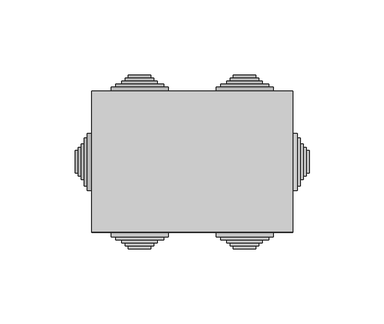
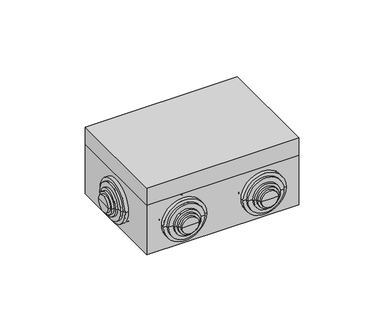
"""IFC4 building model written with IfcOpenShell, lengths in millimetres: cable carrier fitting geometry."""

from ifc_helpers import new_model, si_unit, frame, origin, place, context, project, spatial, polyline, circle_curve, faceted_brep, source, transform, mapped, element, save
from ifc_brep_helpers import plane_surface, cylinder_surface, revolved_surface, advanced_brep


def cable_carrier_fitting_28132b05(model_context):
    return source(origin(), model_context, "Body", "SolidModel", [
        advanced_brep(
        [(-65.0, -16.0, 23.0), (-65.0, 16.0, 23.0), (-65.0, 19.0, 23.0), (-65.0, -19.0, 23.0), (-67.0, -16.0, 23.0), (-67.0, 16.0, 23.0), (-67.0, -19.0, 23.0), (-67.0, 19.0, 23.0), (-70.0, -19.0, 23.0), (-70.0, 19.0, 23.0), (-70.0, -16.0, 23.0), (-70.0, 16.0, 23.0), (-72.0, -16.0, 23.0), (-72.0, 16.0, 23.0), (-72.0, -11.75, 23.0), (-72.0, 11.75, 23.0), (-74.0, -11.75, 23.0), (-74.0, 11.75, 23.0), (-74.0, -9.5, 23.0), (-74.0, 9.5, 23.0), (-76.0, -9.5, 23.0), (-76.0, 9.5, 23.0), (-76.0, -7.5, 23.0), (-76.0, 7.5, 23.0), (-78.0, -7.5, 23.0), (-78.0, 7.5, 23.0), (-78.0, 0.0, 23.0), (-58.0, -16.0, 23.0), (-58.0, 16.0, 23.0), (-58.0, 0.0, 23.0), (-62.7491137, -19.0, 23.0), (-62.7491137, 19.0, 23.0)],
        [
            (0, 1, circle_curve(frame((-65.0, 0.0, 23.0), z_axis=(1.0, 0.0, 0.0), x_axis=(0.0, 1.0000000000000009, 0.0)), 16.0)),
            (1, 2),
            (2, 3, circle_curve(frame((-65.0, 0.0, 23.0), z_axis=(-1.0, 0.0, 0.0), x_axis=(0.0, 1.0000000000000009, 0.0)), 19.0)),
            (3, 0),
            (1, 0, circle_curve(frame((-65.0, 0.0, 23.0), z_axis=(1.0, 0.0, 0.0), x_axis=(0.0, 1.0000000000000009, 0.0)), 16.0)),
            (3, 2, circle_curve(frame((-65.0, 0.0, 23.0), z_axis=(-1.0, 0.0, 0.0), x_axis=(0.0, 1.0000000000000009, 0.0)), 19.0)),
            (4, 5, circle_curve(frame((-67.0, 0.0, 23.0), z_axis=(1.0, 0.0, 0.0), x_axis=(0.0, 1.0000000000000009, 0.0)), 16.0)),
            (5, 1),
            (0, 4),
            (5, 4, circle_curve(frame((-67.0, 0.0, 23.0), z_axis=(1.0, 0.0, 0.0), x_axis=(0.0, 1.0000000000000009, 0.0)), 16.0)),
            (6, 7, circle_curve(frame((-67.0, 0.0, 23.0), z_axis=(1.0, 0.0, 0.0), x_axis=(0.0, 1.0000000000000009, 0.0)), 19.0)),
            (7, 5),
            (4, 6),
            (7, 6, circle_curve(frame((-67.0, 0.0, 23.0), z_axis=(1.0, 0.0, 0.0), x_axis=(0.0, 1.0000000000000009, 0.0)), 19.0)),
            (8, 9, circle_curve(frame((-70.0, 0.0, 23.0), z_axis=(1.0, 0.0, 0.0), x_axis=(0.0, 1.0000000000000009, 0.0)), 19.0)),
            (9, 7),
            (6, 8),
            (9, 8, circle_curve(frame((-70.0, 0.0, 23.0), z_axis=(1.0, 0.0, 0.0), x_axis=(0.0, 1.0000000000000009, 0.0)), 19.0)),
            (10, 11, circle_curve(frame((-70.0, 0.0, 23.0), z_axis=(1.0, 0.0, 0.0), x_axis=(0.0, 1.0000000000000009, 0.0)), 16.0)),
            (11, 9),
            (8, 10),
            (11, 10, circle_curve(frame((-70.0, 0.0, 23.0), z_axis=(1.0, 0.0, 0.0), x_axis=(0.0, 1.0000000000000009, 0.0)), 16.0)),
            (12, 13, circle_curve(frame((-72.0, 0.0, 23.0), z_axis=(1.0, 0.0, 0.0), x_axis=(0.0, 1.0000000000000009, 0.0)), 16.0)),
            (13, 11),
            (10, 12),
            (13, 12, circle_curve(frame((-72.0, 0.0, 23.0), z_axis=(1.0, 0.0, 0.0), x_axis=(0.0, 1.0000000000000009, 0.0)), 16.0)),
            (14, 15, circle_curve(frame((-72.0, 0.0, 23.0), z_axis=(1.0, 0.0, 0.0), x_axis=(0.0, 1.0000000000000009, 0.0)), 11.75)),
            (15, 13),
            (12, 14),
            (15, 14, circle_curve(frame((-72.0, 0.0, 23.0), z_axis=(1.0, 0.0, 0.0), x_axis=(0.0, 1.0000000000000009, 0.0)), 11.75)),
            (16, 17, circle_curve(frame((-74.0, 0.0, 23.0), z_axis=(1.0, 0.0, 0.0), x_axis=(0.0, 1.0000000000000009, 0.0)), 11.75)),
            (17, 15),
            (14, 16),
            (17, 16, circle_curve(frame((-74.0, 0.0, 23.0), z_axis=(1.0, 0.0, 0.0), x_axis=(0.0, 1.0000000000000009, 0.0)), 11.75)),
            (18, 19, circle_curve(frame((-74.0, 0.0, 23.0), z_axis=(1.0, 0.0, 0.0), x_axis=(0.0, 1.0000000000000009, 0.0)), 9.5)),
            (19, 17),
            (16, 18),
            (19, 18, circle_curve(frame((-74.0, 0.0, 23.0), z_axis=(1.0, 0.0, 0.0), x_axis=(0.0, 1.0000000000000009, 0.0)), 9.5)),
            (20, 21, circle_curve(frame((-76.0, 0.0, 23.0), z_axis=(1.0, 0.0, 0.0), x_axis=(0.0, 1.0000000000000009, 0.0)), 9.5)),
            (21, 19),
            (18, 20),
            (21, 20, circle_curve(frame((-76.0, 0.0, 23.0), z_axis=(1.0, 0.0, 0.0), x_axis=(0.0, 1.0000000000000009, 0.0)), 9.5)),
            (22, 23, circle_curve(frame((-76.0, 0.0, 23.0), z_axis=(1.0, 0.0, 0.0), x_axis=(0.0, 1.0000000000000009, 0.0)), 7.5)),
            (23, 21),
            (20, 22),
            (23, 22, circle_curve(frame((-76.0, 0.0, 23.0), z_axis=(1.0, 0.0, 0.0), x_axis=(0.0, 1.0000000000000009, 0.0)), 7.5)),
            (24, 25, circle_curve(frame((-78.0, 0.0, 23.0), z_axis=(1.0, 0.0, 0.0), x_axis=(0.0, 1.0000000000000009, 0.0)), 7.5)),
            (25, 23),
            (22, 24),
            (25, 24, circle_curve(frame((-78.0, 0.0, 23.0), z_axis=(1.0, 0.0, 0.0), x_axis=(0.0, 1.0000000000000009, 0.0)), 7.5)),
            (26, 25),
            (24, 26),
            (27, 28, circle_curve(frame((-58.0, 0.0, 23.0), z_axis=(1.0, 0.0, 0.0), x_axis=(0.0, 1.0000000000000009, 0.0)), 16.0)),
            (28, 29),
            (29, 27),
            (28, 27, circle_curve(frame((-58.0, 0.0, 23.0), z_axis=(1.0, 0.0, 0.0), x_axis=(0.0, 1.0000000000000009, 0.0)), 16.0)),
            (30, 31, circle_curve(frame((-62.7491137, 0.0, 23.0), z_axis=(1.0, 0.0, 0.0), x_axis=(0.0, 1.0000000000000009, 0.0)), 19.0)),
            (31, 28),
            (27, 30),
            (31, 30, circle_curve(frame((-62.7491137, 0.0, 23.0), z_axis=(1.0, 0.0, 0.0), x_axis=(0.0, 1.0000000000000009, 0.0)), 19.0)),
            (2, 31),
            (30, 3),
        ],
        [
            plane_surface(frame((-65.0, 0.0, 23.0), z_axis=(-1.0, 0.0, 0.0), x_axis=(0.0, 1.0, 0.0))),
            cylinder_surface(frame((1448.0, 0.0, 23.0), z_axis=(-1.0000000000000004, 0.0, 0.0), x_axis=(0.0, 1.0000000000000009, 0.0)), 16.0),
            plane_surface(frame((-67.0, 0.0, 23.0), z_axis=(1.0, 0.0, 0.0), x_axis=(0.0, 1.0, 0.0))),
            cylinder_surface(frame((1448.0, 0.0, 23.0), z_axis=(-1.0000000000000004, 0.0, 0.0), x_axis=(0.0, 1.0000000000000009, 0.0)), 19.0),
            plane_surface(frame((-70.0, 0.0, 23.0), z_axis=(-1.0, 0.0, 0.0), x_axis=(0.0, 1.0, 0.0))),
            plane_surface(frame((-72.0, 0.0, 23.0), z_axis=(-1.0, 0.0, 0.0), x_axis=(0.0, 1.0, 0.0))),
            cylinder_surface(frame((1448.0, 0.0, 23.0), z_axis=(-1.0000000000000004, 0.0, 0.0), x_axis=(0.0, 1.0000000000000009, 0.0)), 11.75),
            plane_surface(frame((-74.0, 0.0, 23.0), z_axis=(-1.0, 0.0, 0.0), x_axis=(0.0, 1.0, 0.0))),
            cylinder_surface(frame((1448.0, 0.0, 23.0), z_axis=(-1.0000000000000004, 0.0, 0.0), x_axis=(0.0, 1.0000000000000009, 0.0)), 9.5),
            plane_surface(frame((-76.0, 0.0, 23.0), z_axis=(-1.0, 0.0, 0.0), x_axis=(0.0, 1.0, 0.0))),
            cylinder_surface(frame((1448.0, 0.0, 23.0), z_axis=(-1.0000000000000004, 0.0, 0.0), x_axis=(0.0, 1.0000000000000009, 0.0)), 7.5),
            plane_surface(frame((-78.0, 0.0, 23.0), z_axis=(-1.0, 0.0, 0.0), x_axis=(0.0, 1.0, 0.0))),
            plane_surface(frame((-58.0, 0.0, 23.0), z_axis=(1.0, 0.0, 0.0), x_axis=(0.0, 1.0, 0.0))),
            revolved_surface(polyline([(-58.0, 16.0, 23.0), (-62.7491137, 19.0, 23.0)]), (1448.0, 0.0, 23.0), (-1.0000000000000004, 0.0, 0.0)),
        ],
        [
            (0, [[1, 2, 3, 4]]),
            (0, [[5, -4, 6, -2]]),
            (1, [[7, 8, -1, 9]]),
            (1, [[10, -9, -5, -8]]),
            (2, [[11, 12, -7, 13]]),
            (2, [[14, -13, -10, -12]]),
            (3, [[15, 16, -11, 17]]),
            (3, [[18, -17, -14, -16]]),
            (4, [[19, 20, -15, 21]]),
            (4, [[22, -21, -18, -20]]),
            (1, [[23, 24, -19, 25]]),
            (1, [[26, -25, -22, -24]]),
            (5, [[27, 28, -23, 29]]),
            (5, [[30, -29, -26, -28]]),
            (6, [[31, 32, -27, 33]]),
            (6, [[34, -33, -30, -32]]),
            (7, [[35, 36, -31, 37]]),
            (7, [[38, -37, -34, -36]]),
            (8, [[39, 40, -35, 41]]),
            (8, [[42, -41, -38, -40]]),
            (9, [[43, 44, -39, 45]]),
            (9, [[46, -45, -42, -44]]),
            (10, [[47, 48, -43, 49]]),
            (10, [[50, -49, -46, -48]]),
            (11, [[51, -47, 52]]),
            (11, [[-52, -50, -51]]),
            (12, [[53, 54, 55]]),
            (12, [[56, -55, -54]]),
            (13, [[57, 58, -53, 59]]),
            (13, [[60, -59, -56, -58]]),
            (3, [[-3, 61, -57, 62]]),
            (3, [[-6, -62, -60, -61]]),
        ],
    ),
        advanced_brep(
        [(65.0, 16.0, 23.0), (65.0, -16.0, 23.0), (65.0, -19.0, 23.0), (65.0, 19.0, 23.0), (67.0, 16.0, 23.0), (67.0, -16.0, 23.0), (67.0, 19.0, 23.0), (67.0, -19.0, 23.0), (70.0, 19.0, 23.0), (70.0, -19.0, 23.0), (70.0, 16.0, 23.0), (70.0, -16.0, 23.0), (72.0, 16.0, 23.0), (72.0, -16.0, 23.0), (72.0, 11.75, 23.0), (72.0, -11.75, 23.0), (74.0, 11.75, 23.0), (74.0, -11.75, 23.0), (74.0, 9.5, 23.0), (74.0, -9.5, 23.0), (76.0, 9.5, 23.0), (76.0, -9.5, 23.0), (76.0, 7.5, 23.0), (76.0, -7.5, 23.0), (78.0, 7.5, 23.0), (78.0, -7.5, 23.0), (78.0, 0.0, 23.0), (58.0, 16.0, 23.0), (58.0, -16.0, 23.0), (58.0, 0.0, 23.0), (62.7491137, 19.0, 23.0), (62.7491137, -19.0, 23.0)],
        [
            (0, 1, circle_curve(frame((65.0, 0.0, 23.0), z_axis=(-1.0, 0.0, 0.0), x_axis=(0.0, -1.0, 0.0)), 16.0)),
            (1, 2),
            (2, 3, circle_curve(frame((65.0, 0.0, 23.0), z_axis=(1.0, 0.0, 0.0), x_axis=(0.0, -1.0, 0.0)), 19.0)),
            (3, 0),
            (1, 0, circle_curve(frame((65.0, 0.0, 23.0), z_axis=(-1.0, 0.0, 0.0), x_axis=(0.0, -1.0, 0.0)), 16.0)),
            (3, 2, circle_curve(frame((65.0, 0.0, 23.0), z_axis=(1.0, 0.0, 0.0), x_axis=(0.0, -1.0, 0.0)), 19.0)),
            (4, 5, circle_curve(frame((67.0, 0.0, 23.0), z_axis=(-1.0, 0.0, 0.0), x_axis=(0.0, -1.0, 0.0)), 16.0)),
            (5, 1),
            (0, 4),
            (5, 4, circle_curve(frame((67.0, 0.0, 23.0), z_axis=(-1.0, 0.0, 0.0), x_axis=(0.0, -1.0, 0.0)), 16.0)),
            (6, 7, circle_curve(frame((67.0, 0.0, 23.0), z_axis=(-1.0, 0.0, 0.0), x_axis=(0.0, -1.0, 0.0)), 19.0)),
            (7, 5),
            (4, 6),
            (7, 6, circle_curve(frame((67.0, 0.0, 23.0), z_axis=(-1.0, 0.0, 0.0), x_axis=(0.0, -1.0, 0.0)), 19.0)),
            (8, 9, circle_curve(frame((70.0, 0.0, 23.0), z_axis=(-1.0, 0.0, 0.0), x_axis=(0.0, -1.0, 0.0)), 19.0)),
            (9, 7),
            (6, 8),
            (9, 8, circle_curve(frame((70.0, 0.0, 23.0), z_axis=(-1.0, 0.0, 0.0), x_axis=(0.0, -1.0, 0.0)), 19.0)),
            (10, 11, circle_curve(frame((70.0, 0.0, 23.0), z_axis=(-1.0, 0.0, 0.0), x_axis=(0.0, -1.0, 0.0)), 16.0)),
            (11, 9),
            (8, 10),
            (11, 10, circle_curve(frame((70.0, 0.0, 23.0), z_axis=(-1.0, 0.0, 0.0), x_axis=(0.0, -1.0, 0.0)), 16.0)),
            (12, 13, circle_curve(frame((72.0, 0.0, 23.0), z_axis=(-1.0, 0.0, 0.0), x_axis=(0.0, -1.0, 0.0)), 16.0)),
            (13, 11),
            (10, 12),
            (13, 12, circle_curve(frame((72.0, 0.0, 23.0), z_axis=(-1.0, 0.0, 0.0), x_axis=(0.0, -1.0, 0.0)), 16.0)),
            (14, 15, circle_curve(frame((72.0, 0.0, 23.0), z_axis=(-1.0, 0.0, 0.0), x_axis=(0.0, -1.0, 0.0)), 11.75)),
            (15, 13),
            (12, 14),
            (15, 14, circle_curve(frame((72.0, 0.0, 23.0), z_axis=(-1.0, 0.0, 0.0), x_axis=(0.0, -1.0, 0.0)), 11.75)),
            (16, 17, circle_curve(frame((74.0, 0.0, 23.0), z_axis=(-1.0, 0.0, 0.0), x_axis=(0.0, -1.0, 0.0)), 11.75)),
            (17, 15),
            (14, 16),
            (17, 16, circle_curve(frame((74.0, 0.0, 23.0), z_axis=(-1.0, 0.0, 0.0), x_axis=(0.0, -1.0, 0.0)), 11.75)),
            (18, 19, circle_curve(frame((74.0, 0.0, 23.0), z_axis=(-1.0, 0.0, 0.0), x_axis=(0.0, -1.0, 0.0)), 9.5)),
            (19, 17),
            (16, 18),
            (19, 18, circle_curve(frame((74.0, 0.0, 23.0), z_axis=(-1.0, 0.0, 0.0), x_axis=(0.0, -1.0, 0.0)), 9.5)),
            (20, 21, circle_curve(frame((76.0, 0.0, 23.0), z_axis=(-1.0, 0.0, 0.0), x_axis=(0.0, -1.0, 0.0)), 9.5)),
            (21, 19),
            (18, 20),
            (21, 20, circle_curve(frame((76.0, 0.0, 23.0), z_axis=(-1.0, 0.0, 0.0), x_axis=(0.0, -1.0, 0.0)), 9.5)),
            (22, 23, circle_curve(frame((76.0, 0.0, 23.0), z_axis=(-1.0, 0.0, 0.0), x_axis=(0.0, -1.0, 0.0)), 7.5)),
            (23, 21),
            (20, 22),
            (23, 22, circle_curve(frame((76.0, 0.0, 23.0), z_axis=(-1.0, 0.0, 0.0), x_axis=(0.0, -1.0, 0.0)), 7.5)),
            (24, 25, circle_curve(frame((78.0, 0.0, 23.0), z_axis=(-1.0, 0.0, 0.0), x_axis=(0.0, -1.0, 0.0)), 7.5)),
            (25, 23),
            (22, 24),
            (25, 24, circle_curve(frame((78.0, 0.0, 23.0), z_axis=(-1.0, 0.0, 0.0), x_axis=(0.0, -1.0, 0.0)), 7.5)),
            (26, 25),
            (24, 26),
            (27, 28, circle_curve(frame((58.0, 0.0, 23.0), z_axis=(-1.0, 0.0, 0.0), x_axis=(0.0, -1.0, 0.0)), 16.0)),
            (28, 29),
            (29, 27),
            (28, 27, circle_curve(frame((58.0, 0.0, 23.0), z_axis=(-1.0, 0.0, 0.0), x_axis=(0.0, -1.0, 0.0)), 16.0)),
            (30, 31, circle_curve(frame((62.7491137, 0.0, 23.0), z_axis=(-1.0, 0.0, 0.0), x_axis=(0.0, -1.0, 0.0)), 19.0)),
            (31, 28),
            (27, 30),
            (31, 30, circle_curve(frame((62.7491137, 0.0, 23.0), z_axis=(-1.0, 0.0, 0.0), x_axis=(0.0, -1.0, 0.0)), 19.0)),
            (2, 31),
            (30, 3),
        ],
        [
            plane_surface(frame((65.0, 0.0, 23.0), z_axis=(1.0, 0.0, 0.0), x_axis=(0.0, -1.0, 0.0))),
            cylinder_surface(frame((-1448.0, 0.0, 23.0), z_axis=(1.0, 0.0, 0.0), x_axis=(0.0, -1.0, 0.0)), 16.0),
            plane_surface(frame((67.0, 0.0, 23.0), z_axis=(-1.0, 0.0, 0.0), x_axis=(0.0, -1.0, 0.0))),
            cylinder_surface(frame((-1448.0, 0.0, 23.0), z_axis=(1.0, 0.0, 0.0), x_axis=(0.0, -1.0, 0.0)), 19.0),
            plane_surface(frame((70.0, 0.0, 23.0), z_axis=(1.0, 0.0, 0.0), x_axis=(0.0, -1.0, 0.0))),
            plane_surface(frame((72.0, 0.0, 23.0), z_axis=(1.0, 0.0, 0.0), x_axis=(0.0, -1.0, 0.0))),
            cylinder_surface(frame((-1448.0, 0.0, 23.0), z_axis=(1.0, 0.0, 0.0), x_axis=(0.0, -1.0, 0.0)), 11.75),
            plane_surface(frame((74.0, 0.0, 23.0), z_axis=(1.0, 0.0, 0.0), x_axis=(0.0, -1.0, 0.0))),
            cylinder_surface(frame((-1448.0, 0.0, 23.0), z_axis=(1.0, 0.0, 0.0), x_axis=(0.0, -1.0, 0.0)), 9.5),
            plane_surface(frame((76.0, 0.0, 23.0), z_axis=(1.0, 0.0, 0.0), x_axis=(0.0, -1.0, 0.0))),
            cylinder_surface(frame((-1448.0, 0.0, 23.0), z_axis=(1.0, 0.0, 0.0), x_axis=(0.0, -1.0, 0.0)), 7.5),
            plane_surface(frame((78.0, 0.0, 23.0), z_axis=(1.0, 0.0, 0.0), x_axis=(0.0, -1.0, 0.0))),
            plane_surface(frame((58.0, 0.0, 23.0), z_axis=(-1.0, 0.0, 0.0), x_axis=(0.0, -1.0, 0.0))),
            revolved_surface(polyline([(58.0, -16.0, 23.0), (62.7491137, -19.0, 23.0)]), (-1448.0, 0.0, 23.0), (1.0, 0.0, 0.0)),
        ],
        [
            (0, [[1, 2, 3, 4]]),
            (0, [[5, -4, 6, -2]]),
            (1, [[7, 8, -1, 9]]),
            (1, [[10, -9, -5, -8]]),
            (2, [[11, 12, -7, 13]]),
            (2, [[14, -13, -10, -12]]),
            (3, [[15, 16, -11, 17]]),
            (3, [[18, -17, -14, -16]]),
            (4, [[19, 20, -15, 21]]),
            (4, [[22, -21, -18, -20]]),
            (1, [[23, 24, -19, 25]]),
            (1, [[26, -25, -22, -24]]),
            (5, [[27, 28, -23, 29]]),
            (5, [[30, -29, -26, -28]]),
            (6, [[31, 32, -27, 33]]),
            (6, [[34, -33, -30, -32]]),
            (7, [[35, 36, -31, 37]]),
            (7, [[38, -37, -34, -36]]),
            (8, [[39, 40, -35, 41]]),
            (8, [[42, -41, -38, -40]]),
            (9, [[43, 44, -39, 45]]),
            (9, [[46, -45, -42, -44]]),
            (10, [[47, 48, -43, 49]]),
            (10, [[50, -49, -46, -48]]),
            (11, [[51, -47, 52]]),
            (11, [[-52, -50, -51]]),
            (12, [[53, 54, 55]]),
            (12, [[56, -55, -54]]),
            (13, [[57, 58, -53, 59]]),
            (13, [[60, -59, -56, -58]]),
            (3, [[-3, 61, -57, 62]]),
            (3, [[-6, -62, -60, -61]]),
        ],
    ),
        advanced_brep(
        [(51.0, -45.0, 23.0), (19.0, -45.0, 23.0), (16.0, -45.0, 23.0), (54.0, -45.0, 23.0), (51.0, -47.0, 23.0), (19.0, -47.0, 23.0), (54.0, -47.0, 23.0), (16.0, -47.0, 23.0), (54.0, -50.0, 23.0), (16.0, -50.0, 23.0), (51.0, -50.0, 23.0), (19.0, -50.0, 23.0), (51.0, -52.0, 23.0), (19.0, -52.0, 23.0), (46.75, -52.0, 23.0), (23.25, -52.0, 23.0), (46.75, -54.0, 23.0), (23.25, -54.0, 23.0), (44.5, -54.0, 23.0), (25.5, -54.0, 23.0), (44.5, -56.0, 23.0), (25.5, -56.0, 23.0), (42.5, -56.0, 23.0), (27.5, -56.0, 23.0), (42.5, -58.0, 23.0), (27.5, -58.0, 23.0), (35.0, -58.0, 23.0), (51.0, -38.0, 23.0), (19.0, -38.0, 23.0), (35.0, -38.0, 23.0), (54.0, -42.7491137, 23.0), (16.0, -42.7491137, 23.0)],
        [
            (0, 1, circle_curve(frame((35.0, -45.0, 23.0), z_axis=(0.0, 1.0, 0.0), x_axis=(-1.0000000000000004, 0.0, 0.0)), 16.0)),
            (1, 2),
            (2, 3, circle_curve(frame((35.0, -45.0, 23.0), z_axis=(0.0, -1.0, 0.0), x_axis=(-1.0000000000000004, 0.0, 0.0)), 19.0)),
            (3, 0),
            (1, 0, circle_curve(frame((35.0, -45.0, 23.0), z_axis=(0.0, 1.0, 0.0), x_axis=(-1.0000000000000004, 0.0, 0.0)), 16.0)),
            (3, 2, circle_curve(frame((35.0, -45.0, 23.0), z_axis=(0.0, -1.0, 0.0), x_axis=(-1.0000000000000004, 0.0, 0.0)), 19.0)),
            (4, 5, circle_curve(frame((35.0, -47.0, 23.0), z_axis=(0.0, 1.0, 0.0), x_axis=(-1.0000000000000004, 0.0, 0.0)), 16.0)),
            (5, 1),
            (0, 4),
            (5, 4, circle_curve(frame((35.0, -47.0, 23.0), z_axis=(0.0, 1.0, 0.0), x_axis=(-1.0000000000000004, 0.0, 0.0)), 16.0)),
            (6, 7, circle_curve(frame((35.0, -47.0, 23.0), z_axis=(0.0, 1.0, 0.0), x_axis=(-1.0000000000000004, 0.0, 0.0)), 19.0)),
            (7, 5),
            (4, 6),
            (7, 6, circle_curve(frame((35.0, -47.0, 23.0), z_axis=(0.0, 1.0, 0.0), x_axis=(-1.0000000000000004, 0.0, 0.0)), 19.0)),
            (8, 9, circle_curve(frame((35.0, -50.0, 23.0), z_axis=(0.0, 1.0, 0.0), x_axis=(-1.0000000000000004, 0.0, 0.0)), 19.0)),
            (9, 7),
            (6, 8),
            (9, 8, circle_curve(frame((35.0, -50.0, 23.0), z_axis=(0.0, 1.0, 0.0), x_axis=(-1.0000000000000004, 0.0, 0.0)), 19.0)),
            (10, 11, circle_curve(frame((35.0, -50.0, 23.0), z_axis=(0.0, 1.0, 0.0), x_axis=(-1.0000000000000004, 0.0, 0.0)), 16.0)),
            (11, 9),
            (8, 10),
            (11, 10, circle_curve(frame((35.0, -50.0, 23.0), z_axis=(0.0, 1.0, 0.0), x_axis=(-1.0000000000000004, 0.0, 0.0)), 16.0)),
            (12, 13, circle_curve(frame((35.0, -52.0, 23.0), z_axis=(0.0, 1.0, 0.0), x_axis=(-1.0000000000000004, 0.0, 0.0)), 16.0)),
            (13, 11),
            (10, 12),
            (13, 12, circle_curve(frame((35.0, -52.0, 23.0), z_axis=(0.0, 1.0, 0.0), x_axis=(-1.0000000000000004, 0.0, 0.0)), 16.0)),
            (14, 15, circle_curve(frame((35.0, -52.0, 23.0), z_axis=(0.0, 1.0, 0.0), x_axis=(-1.0000000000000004, 0.0, 0.0)), 11.75)),
            (15, 13),
            (12, 14),
            (15, 14, circle_curve(frame((35.0, -52.0, 23.0), z_axis=(0.0, 1.0, 0.0), x_axis=(-1.0000000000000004, 0.0, 0.0)), 11.75)),
            (16, 17, circle_curve(frame((35.0, -54.0, 23.0), z_axis=(0.0, 1.0, 0.0), x_axis=(-1.0000000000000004, 0.0, 0.0)), 11.75)),
            (17, 15),
            (14, 16),
            (17, 16, circle_curve(frame((35.0, -54.0, 23.0), z_axis=(0.0, 1.0, 0.0), x_axis=(-1.0000000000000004, 0.0, 0.0)), 11.75)),
            (18, 19, circle_curve(frame((35.0, -54.0, 23.0), z_axis=(0.0, 1.0, 0.0), x_axis=(-1.0000000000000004, 0.0, 0.0)), 9.5)),
            (19, 17),
            (16, 18),
            (19, 18, circle_curve(frame((35.0, -54.0, 23.0), z_axis=(0.0, 1.0, 0.0), x_axis=(-1.0000000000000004, 0.0, 0.0)), 9.5)),
            (20, 21, circle_curve(frame((35.0, -56.0, 23.0), z_axis=(0.0, 1.0, 0.0), x_axis=(-1.0000000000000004, 0.0, 0.0)), 9.5)),
            (21, 19),
            (18, 20),
            (21, 20, circle_curve(frame((35.0, -56.0, 23.0), z_axis=(0.0, 1.0, 0.0), x_axis=(-1.0000000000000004, 0.0, 0.0)), 9.5)),
            (22, 23, circle_curve(frame((35.0, -56.0, 23.0), z_axis=(0.0, 1.0, 0.0), x_axis=(-1.0000000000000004, 0.0, 0.0)), 7.5)),
            (23, 21),
            (20, 22),
            (23, 22, circle_curve(frame((35.0, -56.0, 23.0), z_axis=(0.0, 1.0, 0.0), x_axis=(-1.0000000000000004, 0.0, 0.0)), 7.5)),
            (24, 25, circle_curve(frame((35.0, -58.0, 23.0), z_axis=(0.0, 1.0, 0.0), x_axis=(-1.0000000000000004, 0.0, 0.0)), 7.5)),
            (25, 23),
            (22, 24),
            (25, 24, circle_curve(frame((35.0, -58.0, 23.0), z_axis=(0.0, 1.0, 0.0), x_axis=(-1.0000000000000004, 0.0, 0.0)), 7.5)),
            (26, 25),
            (24, 26),
            (27, 28, circle_curve(frame((35.0, -38.0, 23.0), z_axis=(0.0, 1.0, 0.0), x_axis=(-1.0000000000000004, 0.0, 0.0)), 16.0)),
            (28, 29),
            (29, 27),
            (28, 27, circle_curve(frame((35.0, -38.0, 23.0), z_axis=(0.0, 1.0, 0.0), x_axis=(-1.0000000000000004, 0.0, 0.0)), 16.0)),
            (30, 31, circle_curve(frame((35.0, -42.7491137, 23.0), z_axis=(0.0, 1.0, 0.0), x_axis=(-1.0000000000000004, 0.0, 0.0)), 19.0)),
            (31, 28),
            (27, 30),
            (31, 30, circle_curve(frame((35.0, -42.7491137, 23.0), z_axis=(0.0, 1.0, 0.0), x_axis=(-1.0000000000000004, 0.0, 0.0)), 19.0)),
            (2, 31),
            (30, 3),
        ],
        [
            plane_surface(frame((35.0, -45.0, 23.0), z_axis=(0.0, -1.0, 0.0), x_axis=(-1.0, 0.0, 0.0))),
            cylinder_surface(frame((35.0, 1468.0, 23.0), z_axis=(0.0, -1.0000000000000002, 0.0), x_axis=(-1.0000000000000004, 0.0, 0.0)), 16.0),
            plane_surface(frame((35.0, -47.0, 23.0), z_axis=(0.0, 1.0, 0.0), x_axis=(-1.0, 0.0, 0.0))),
            cylinder_surface(frame((35.0, 1468.0, 23.0), z_axis=(0.0, -1.0000000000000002, 0.0), x_axis=(-1.0000000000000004, 0.0, 0.0)), 19.0),
            plane_surface(frame((35.0, -50.0, 23.0), z_axis=(0.0, -1.0, 0.0), x_axis=(-1.0, 0.0, 0.0))),
            plane_surface(frame((35.0, -52.0, 23.0), z_axis=(0.0, -1.0, 0.0), x_axis=(-1.0, 0.0, 0.0))),
            cylinder_surface(frame((35.0, 1468.0, 23.0), z_axis=(0.0, -1.0000000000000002, 0.0), x_axis=(-1.0000000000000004, 0.0, 0.0)), 11.75),
            plane_surface(frame((35.0, -54.0, 23.0), z_axis=(0.0, -1.0, 0.0), x_axis=(-1.0, 0.0, 0.0))),
            cylinder_surface(frame((35.0, 1468.0, 23.0), z_axis=(0.0, -1.0000000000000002, 0.0), x_axis=(-1.0000000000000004, 0.0, 0.0)), 9.5),
            plane_surface(frame((35.0, -56.0, 23.0), z_axis=(0.0, -1.0, 0.0), x_axis=(-1.0, 0.0, 0.0))),
            cylinder_surface(frame((35.0, 1468.0, 23.0), z_axis=(0.0, -1.0000000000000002, 0.0), x_axis=(-1.0000000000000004, 0.0, 0.0)), 7.5),
            plane_surface(frame((35.0, -58.0, 23.0), z_axis=(0.0, -1.0, 0.0), x_axis=(-1.0, 0.0, 0.0))),
            plane_surface(frame((35.0, -38.0, 23.0), z_axis=(0.0, 1.0, 0.0), x_axis=(-1.0, 0.0, 0.0))),
            revolved_surface(polyline([(19.0, -38.0, 23.0), (16.0, -42.7491137, 23.0)]), (35.0, 1468.0, 23.0), (0.0, -1.0000000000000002, 0.0)),
        ],
        [
            (0, [[1, 2, 3, 4]]),
            (0, [[5, -4, 6, -2]]),
            (1, [[7, 8, -1, 9]]),
            (1, [[10, -9, -5, -8]]),
            (2, [[11, 12, -7, 13]]),
            (2, [[14, -13, -10, -12]]),
            (3, [[15, 16, -11, 17]]),
            (3, [[18, -17, -14, -16]]),
            (4, [[19, 20, -15, 21]]),
            (4, [[22, -21, -18, -20]]),
            (1, [[23, 24, -19, 25]]),
            (1, [[26, -25, -22, -24]]),
            (5, [[27, 28, -23, 29]]),
            (5, [[30, -29, -26, -28]]),
            (6, [[31, 32, -27, 33]]),
            (6, [[34, -33, -30, -32]]),
            (7, [[35, 36, -31, 37]]),
            (7, [[38, -37, -34, -36]]),
            (8, [[39, 40, -35, 41]]),
            (8, [[42, -41, -38, -40]]),
            (9, [[43, 44, -39, 45]]),
            (9, [[46, -45, -42, -44]]),
            (10, [[47, 48, -43, 49]]),
            (10, [[50, -49, -46, -48]]),
            (11, [[51, -47, 52]]),
            (11, [[-52, -50, -51]]),
            (12, [[53, 54, 55]]),
            (12, [[56, -55, -54]]),
            (13, [[57, 58, -53, 59]]),
            (13, [[60, -59, -56, -58]]),
            (3, [[-3, 61, -57, 62]]),
            (3, [[-6, -62, -60, -61]]),
        ],
    ),
        advanced_brep(
        [(-19.0, -45.0, 23.0), (-51.0, -45.0, 23.0), (-54.0, -45.0, 23.0), (-16.0, -45.0, 23.0), (-19.0, -47.0, 23.0), (-51.0, -47.0, 23.0), (-16.0, -47.0, 23.0), (-54.0, -47.0, 23.0), (-16.0, -50.0, 23.0), (-54.0, -50.0, 23.0), (-19.0, -50.0, 23.0), (-51.0, -50.0, 23.0), (-19.0, -52.0, 23.0), (-51.0, -52.0, 23.0), (-23.25, -52.0, 23.0), (-46.75, -52.0, 23.0), (-23.25, -54.0, 23.0), (-46.75, -54.0, 23.0), (-25.5, -54.0, 23.0), (-44.5, -54.0, 23.0), (-25.5, -56.0, 23.0), (-44.5, -56.0, 23.0), (-27.5, -56.0, 23.0), (-42.5, -56.0, 23.0), (-27.5, -58.0, 23.0), (-42.5, -58.0, 23.0), (-35.0, -58.0, 23.0), (-19.0, -38.0, 23.0), (-51.0, -38.0, 23.0), (-35.0, -38.0, 23.0), (-16.0, -42.7491137, 23.0), (-54.0, -42.7491137, 23.0)],
        [
            (0, 1, circle_curve(frame((-35.0, -45.0, 23.0), z_axis=(0.0, 1.0, 0.0), x_axis=(-1.0000000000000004, 0.0, 0.0)), 16.0)),
            (1, 2),
            (2, 3, circle_curve(frame((-35.0, -45.0, 23.0), z_axis=(0.0, -1.0, 0.0), x_axis=(-1.0000000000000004, 0.0, 0.0)), 19.0)),
            (3, 0),
            (1, 0, circle_curve(frame((-35.0, -45.0, 23.0), z_axis=(0.0, 1.0, 0.0), x_axis=(-1.0000000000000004, 0.0, 0.0)), 16.0)),
            (3, 2, circle_curve(frame((-35.0, -45.0, 23.0), z_axis=(0.0, -1.0, 0.0), x_axis=(-1.0000000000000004, 0.0, 0.0)), 19.0)),
            (4, 5, circle_curve(frame((-35.0, -47.0, 23.0), z_axis=(0.0, 1.0, 0.0), x_axis=(-1.0000000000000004, 0.0, 0.0)), 16.0)),
            (5, 1),
            (0, 4),
            (5, 4, circle_curve(frame((-35.0, -47.0, 23.0), z_axis=(0.0, 1.0, 0.0), x_axis=(-1.0000000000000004, 0.0, 0.0)), 16.0)),
            (6, 7, circle_curve(frame((-35.0, -47.0, 23.0), z_axis=(0.0, 1.0, 0.0), x_axis=(-1.0000000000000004, 0.0, 0.0)), 19.0)),
            (7, 5),
            (4, 6),
            (7, 6, circle_curve(frame((-35.0, -47.0, 23.0), z_axis=(0.0, 1.0, 0.0), x_axis=(-1.0000000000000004, 0.0, 0.0)), 19.0)),
            (8, 9, circle_curve(frame((-35.0, -50.0, 23.0), z_axis=(0.0, 1.0, 0.0), x_axis=(-1.0000000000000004, 0.0, 0.0)), 19.0)),
            (9, 7),
            (6, 8),
            (9, 8, circle_curve(frame((-35.0, -50.0, 23.0), z_axis=(0.0, 1.0, 0.0), x_axis=(-1.0000000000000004, 0.0, 0.0)), 19.0)),
            (10, 11, circle_curve(frame((-35.0, -50.0, 23.0), z_axis=(0.0, 1.0, 0.0), x_axis=(-1.0000000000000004, 0.0, 0.0)), 16.0)),
            (11, 9),
            (8, 10),
            (11, 10, circle_curve(frame((-35.0, -50.0, 23.0), z_axis=(0.0, 1.0, 0.0), x_axis=(-1.0000000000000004, 0.0, 0.0)), 16.0)),
            (12, 13, circle_curve(frame((-35.0, -52.0, 23.0), z_axis=(0.0, 1.0, 0.0), x_axis=(-1.0000000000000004, 0.0, 0.0)), 16.0)),
            (13, 11),
            (10, 12),
            (13, 12, circle_curve(frame((-35.0, -52.0, 23.0), z_axis=(0.0, 1.0, 0.0), x_axis=(-1.0000000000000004, 0.0, 0.0)), 16.0)),
            (14, 15, circle_curve(frame((-35.0, -52.0, 23.0), z_axis=(0.0, 1.0, 0.0), x_axis=(-1.0000000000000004, 0.0, 0.0)), 11.75)),
            (15, 13),
            (12, 14),
            (15, 14, circle_curve(frame((-35.0, -52.0, 23.0), z_axis=(0.0, 1.0, 0.0), x_axis=(-1.0000000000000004, 0.0, 0.0)), 11.75)),
            (16, 17, circle_curve(frame((-35.0, -54.0, 23.0), z_axis=(0.0, 1.0, 0.0), x_axis=(-1.0000000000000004, 0.0, 0.0)), 11.75)),
            (17, 15),
            (14, 16),
            (17, 16, circle_curve(frame((-35.0, -54.0, 23.0), z_axis=(0.0, 1.0, 0.0), x_axis=(-1.0000000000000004, 0.0, 0.0)), 11.75)),
            (18, 19, circle_curve(frame((-35.0, -54.0, 23.0), z_axis=(0.0, 1.0, 0.0), x_axis=(-1.0000000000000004, 0.0, 0.0)), 9.5)),
            (19, 17),
            (16, 18),
            (19, 18, circle_curve(frame((-35.0, -54.0, 23.0), z_axis=(0.0, 1.0, 0.0), x_axis=(-1.0000000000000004, 0.0, 0.0)), 9.5)),
            (20, 21, circle_curve(frame((-35.0, -56.0, 23.0), z_axis=(0.0, 1.0, 0.0), x_axis=(-1.0000000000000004, 0.0, 0.0)), 9.5)),
            (21, 19),
            (18, 20),
            (21, 20, circle_curve(frame((-35.0, -56.0, 23.0), z_axis=(0.0, 1.0, 0.0), x_axis=(-1.0000000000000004, 0.0, 0.0)), 9.5)),
            (22, 23, circle_curve(frame((-35.0, -56.0, 23.0), z_axis=(0.0, 1.0, 0.0), x_axis=(-1.0000000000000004, 0.0, 0.0)), 7.5)),
            (23, 21),
            (20, 22),
            (23, 22, circle_curve(frame((-35.0, -56.0, 23.0), z_axis=(0.0, 1.0, 0.0), x_axis=(-1.0000000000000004, 0.0, 0.0)), 7.5)),
            (24, 25, circle_curve(frame((-35.0, -58.0, 23.0), z_axis=(0.0, 1.0, 0.0), x_axis=(-1.0000000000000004, 0.0, 0.0)), 7.5)),
            (25, 23),
            (22, 24),
            (25, 24, circle_curve(frame((-35.0, -58.0, 23.0), z_axis=(0.0, 1.0, 0.0), x_axis=(-1.0000000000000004, 0.0, 0.0)), 7.5)),
            (26, 25),
            (24, 26),
            (27, 28, circle_curve(frame((-35.0, -38.0, 23.0), z_axis=(0.0, 1.0, 0.0), x_axis=(-1.0000000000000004, 0.0, 0.0)), 16.0)),
            (28, 29),
            (29, 27),
            (28, 27, circle_curve(frame((-35.0, -38.0, 23.0), z_axis=(0.0, 1.0, 0.0), x_axis=(-1.0000000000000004, 0.0, 0.0)), 16.0)),
            (30, 31, circle_curve(frame((-35.0, -42.7491137, 23.0), z_axis=(0.0, 1.0, 0.0), x_axis=(-1.0000000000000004, 0.0, 0.0)), 19.0)),
            (31, 28),
            (27, 30),
            (31, 30, circle_curve(frame((-35.0, -42.7491137, 23.0), z_axis=(0.0, 1.0, 0.0), x_axis=(-1.0000000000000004, 0.0, 0.0)), 19.0)),
            (2, 31),
            (30, 3),
        ],
        [
            plane_surface(frame((-35.0, -45.0, 23.0), z_axis=(0.0, -1.0, 0.0), x_axis=(-1.0, 0.0, 0.0))),
            cylinder_surface(frame((-35.0, 1468.0, 23.0), z_axis=(0.0, -1.0000000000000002, 0.0), x_axis=(-1.0000000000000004, 0.0, 0.0)), 16.0),
            plane_surface(frame((-35.0, -47.0, 23.0), z_axis=(0.0, 1.0, 0.0), x_axis=(-1.0, 0.0, 0.0))),
            cylinder_surface(frame((-35.0, 1468.0, 23.0), z_axis=(0.0, -1.0000000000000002, 0.0), x_axis=(-1.0000000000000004, 0.0, 0.0)), 19.0),
            plane_surface(frame((-35.0, -50.0, 23.0), z_axis=(0.0, -1.0, 0.0), x_axis=(-1.0, 0.0, 0.0))),
            plane_surface(frame((-35.0, -52.0, 23.0), z_axis=(0.0, -1.0, 0.0), x_axis=(-1.0, 0.0, 0.0))),
            cylinder_surface(frame((-35.0, 1468.0, 23.0), z_axis=(0.0, -1.0000000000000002, 0.0), x_axis=(-1.0000000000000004, 0.0, 0.0)), 11.75),
            plane_surface(frame((-35.0, -54.0, 23.0), z_axis=(0.0, -1.0, 0.0), x_axis=(-1.0, 0.0, 0.0))),
            cylinder_surface(frame((-35.0, 1468.0, 23.0), z_axis=(0.0, -1.0000000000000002, 0.0), x_axis=(-1.0000000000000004, 0.0, 0.0)), 9.5),
            plane_surface(frame((-35.0, -56.0, 23.0), z_axis=(0.0, -1.0, 0.0), x_axis=(-1.0, 0.0, 0.0))),
            cylinder_surface(frame((-35.0, 1468.0, 23.0), z_axis=(0.0, -1.0000000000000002, 0.0), x_axis=(-1.0000000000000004, 0.0, 0.0)), 7.5),
            plane_surface(frame((-35.0, -58.0, 23.0), z_axis=(0.0, -1.0, 0.0), x_axis=(-1.0, 0.0, 0.0))),
            plane_surface(frame((-35.0, -38.0, 23.0), z_axis=(0.0, 1.0, 0.0), x_axis=(-1.0, 0.0, 0.0))),
            revolved_surface(polyline([(-51.0, -38.0, 23.0), (-54.0, -42.7491137, 23.0)]), (-35.0, 1468.0, 23.0), (0.0, -1.0000000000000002, 0.0)),
        ],
        [
            (0, [[1, 2, 3, 4]]),
            (0, [[5, -4, 6, -2]]),
            (1, [[7, 8, -1, 9]]),
            (1, [[10, -9, -5, -8]]),
            (2, [[11, 12, -7, 13]]),
            (2, [[14, -13, -10, -12]]),
            (3, [[15, 16, -11, 17]]),
            (3, [[18, -17, -14, -16]]),
            (4, [[19, 20, -15, 21]]),
            (4, [[22, -21, -18, -20]]),
            (1, [[23, 24, -19, 25]]),
            (1, [[26, -25, -22, -24]]),
            (5, [[27, 28, -23, 29]]),
            (5, [[30, -29, -26, -28]]),
            (6, [[31, 32, -27, 33]]),
            (6, [[34, -33, -30, -32]]),
            (7, [[35, 36, -31, 37]]),
            (7, [[38, -37, -34, -36]]),
            (8, [[39, 40, -35, 41]]),
            (8, [[42, -41, -38, -40]]),
            (9, [[43, 44, -39, 45]]),
            (9, [[46, -45, -42, -44]]),
            (10, [[47, 48, -43, 49]]),
            (10, [[50, -49, -46, -48]]),
            (11, [[51, -47, 52]]),
            (11, [[-52, -50, -51]]),
            (12, [[53, 54, 55]]),
            (12, [[56, -55, -54]]),
            (13, [[57, 58, -53, 59]]),
            (13, [[60, -59, -56, -58]]),
            (3, [[-3, 61, -57, 62]]),
            (3, [[-6, -62, -60, -61]]),
        ],
    ),
        advanced_brep(
        [(19.0, 45.0, 23.0), (51.0, 45.0, 23.0), (54.0, 45.0, 23.0), (16.0, 45.0, 23.0), (19.0, 47.0, 23.0), (51.0, 47.0, 23.0), (16.0, 47.0, 23.0), (54.0, 47.0, 23.0), (16.0, 50.0, 23.0), (54.0, 50.0, 23.0), (19.0, 50.0, 23.0), (51.0, 50.0, 23.0), (19.0, 52.0, 23.0), (51.0, 52.0, 23.0), (23.25, 52.0, 23.0), (46.75, 52.0, 23.0), (23.25, 54.0, 23.0), (46.75, 54.0, 23.0), (25.5, 54.0, 23.0), (44.5, 54.0, 23.0), (25.5, 56.0, 23.0), (44.5, 56.0, 23.0), (27.5, 56.0, 23.0), (42.5, 56.0, 23.0), (27.5, 58.0, 23.0), (42.5, 58.0, 23.0), (35.0, 58.0, 23.0), (19.0, 38.0, 23.0), (51.0, 38.0, 23.0), (35.0, 38.0, 23.0), (16.0, 42.7491137, 23.0), (54.0, 42.7491137, 23.0)],
        [
            (0, 1, circle_curve(frame((35.0, 45.0, 23.0), z_axis=(0.0, -1.0, 0.0), x_axis=(1.0, 0.0, 0.0)), 16.0)),
            (1, 2),
            (2, 3, circle_curve(frame((35.0, 45.0, 23.0), z_axis=(0.0, 1.0, 0.0), x_axis=(1.0, 0.0, 0.0)), 19.0)),
            (3, 0),
            (1, 0, circle_curve(frame((35.0, 45.0, 23.0), z_axis=(0.0, -1.0, 0.0), x_axis=(1.0, 0.0, 0.0)), 16.0)),
            (3, 2, circle_curve(frame((35.0, 45.0, 23.0), z_axis=(0.0, 1.0, 0.0), x_axis=(1.0, 0.0, 0.0)), 19.0)),
            (4, 5, circle_curve(frame((35.0, 47.0, 23.0), z_axis=(0.0, -1.0, 0.0), x_axis=(1.0, 0.0, 0.0)), 16.0)),
            (5, 1),
            (0, 4),
            (5, 4, circle_curve(frame((35.0, 47.0, 23.0), z_axis=(0.0, -1.0, 0.0), x_axis=(1.0, 0.0, 0.0)), 16.0)),
            (6, 7, circle_curve(frame((35.0, 47.0, 23.0), z_axis=(0.0, -1.0, 0.0), x_axis=(1.0, 0.0, 0.0)), 19.0)),
            (7, 5),
            (4, 6),
            (7, 6, circle_curve(frame((35.0, 47.0, 23.0), z_axis=(0.0, -1.0, 0.0), x_axis=(1.0, 0.0, 0.0)), 19.0)),
            (8, 9, circle_curve(frame((35.0, 50.0, 23.0), z_axis=(0.0, -1.0, 0.0), x_axis=(1.0, 0.0, 0.0)), 19.0)),
            (9, 7),
            (6, 8),
            (9, 8, circle_curve(frame((35.0, 50.0, 23.0), z_axis=(0.0, -1.0, 0.0), x_axis=(1.0, 0.0, 0.0)), 19.0)),
            (10, 11, circle_curve(frame((35.0, 50.0, 23.0), z_axis=(0.0, -1.0, 0.0), x_axis=(1.0, 0.0, 0.0)), 16.0)),
            (11, 9),
            (8, 10),
            (11, 10, circle_curve(frame((35.0, 50.0, 23.0), z_axis=(0.0, -1.0, 0.0), x_axis=(1.0, 0.0, 0.0)), 16.0)),
            (12, 13, circle_curve(frame((35.0, 52.0, 23.0), z_axis=(0.0, -1.0, 0.0), x_axis=(1.0, 0.0, 0.0)), 16.0)),
            (13, 11),
            (10, 12),
            (13, 12, circle_curve(frame((35.0, 52.0, 23.0), z_axis=(0.0, -1.0, 0.0), x_axis=(1.0, 0.0, 0.0)), 16.0)),
            (14, 15, circle_curve(frame((35.0, 52.0, 23.0), z_axis=(0.0, -1.0, 0.0), x_axis=(1.0, 0.0, 0.0)), 11.75)),
            (15, 13),
            (12, 14),
            (15, 14, circle_curve(frame((35.0, 52.0, 23.0), z_axis=(0.0, -1.0, 0.0), x_axis=(1.0, 0.0, 0.0)), 11.75)),
            (16, 17, circle_curve(frame((35.0, 54.0, 23.0), z_axis=(0.0, -1.0, 0.0), x_axis=(1.0, 0.0, 0.0)), 11.75)),
            (17, 15),
            (14, 16),
            (17, 16, circle_curve(frame((35.0, 54.0, 23.0), z_axis=(0.0, -1.0, 0.0), x_axis=(1.0, 0.0, 0.0)), 11.75)),
            (18, 19, circle_curve(frame((35.0, 54.0, 23.0), z_axis=(0.0, -1.0, 0.0), x_axis=(1.0, 0.0, 0.0)), 9.5)),
            (19, 17),
            (16, 18),
            (19, 18, circle_curve(frame((35.0, 54.0, 23.0), z_axis=(0.0, -1.0, 0.0), x_axis=(1.0, 0.0, 0.0)), 9.5)),
            (20, 21, circle_curve(frame((35.0, 56.0, 23.0), z_axis=(0.0, -1.0, 0.0), x_axis=(1.0, 0.0, 0.0)), 9.5)),
            (21, 19),
            (18, 20),
            (21, 20, circle_curve(frame((35.0, 56.0, 23.0), z_axis=(0.0, -1.0, 0.0), x_axis=(1.0, 0.0, 0.0)), 9.5)),
            (22, 23, circle_curve(frame((35.0, 56.0, 23.0), z_axis=(0.0, -1.0, 0.0), x_axis=(1.0, 0.0, 0.0)), 7.5)),
            (23, 21),
            (20, 22),
            (23, 22, circle_curve(frame((35.0, 56.0, 23.0), z_axis=(0.0, -1.0, 0.0), x_axis=(1.0, 0.0, 0.0)), 7.5)),
            (24, 25, circle_curve(frame((35.0, 58.0, 23.0), z_axis=(0.0, -1.0, 0.0), x_axis=(1.0, 0.0, 0.0)), 7.5)),
            (25, 23),
            (22, 24),
            (25, 24, circle_curve(frame((35.0, 58.0, 23.0), z_axis=(0.0, -1.0, 0.0), x_axis=(1.0, 0.0, 0.0)), 7.5)),
            (26, 25),
            (24, 26),
            (27, 28, circle_curve(frame((35.0, 38.0, 23.0), z_axis=(0.0, -1.0, 0.0), x_axis=(1.0, 0.0, 0.0)), 16.0)),
            (28, 29),
            (29, 27),
            (28, 27, circle_curve(frame((35.0, 38.0, 23.0), z_axis=(0.0, -1.0, 0.0), x_axis=(1.0, 0.0, 0.0)), 16.0)),
            (30, 31, circle_curve(frame((35.0, 42.7491137, 23.0), z_axis=(0.0, -1.0, 0.0), x_axis=(1.0, 0.0, 0.0)), 19.0)),
            (31, 28),
            (27, 30),
            (31, 30, circle_curve(frame((35.0, 42.7491137, 23.0), z_axis=(0.0, -1.0, 0.0), x_axis=(1.0, 0.0, 0.0)), 19.0)),
            (2, 31),
            (30, 3),
        ],
        [
            plane_surface(frame((35.0, 45.0, 23.0), z_axis=(0.0, 1.0, 0.0), x_axis=(1.0, 0.0, 0.0))),
            cylinder_surface(frame((35.0, -1468.0, 23.0), z_axis=(0.0, 1.0, 0.0), x_axis=(1.0, 0.0, 0.0)), 16.0),
            plane_surface(frame((35.0, 47.0, 23.0), z_axis=(0.0, -1.0, 0.0), x_axis=(1.0, 0.0, 0.0))),
            cylinder_surface(frame((35.0, -1468.0, 23.0), z_axis=(0.0, 1.0, 0.0), x_axis=(1.0, 0.0, 0.0)), 19.0),
            plane_surface(frame((35.0, 50.0, 23.0), z_axis=(0.0, 1.0, 0.0), x_axis=(1.0, 0.0, 0.0))),
            plane_surface(frame((35.0, 52.0, 23.0), z_axis=(0.0, 1.0, 0.0), x_axis=(1.0, 0.0, 0.0))),
            cylinder_surface(frame((35.0, -1468.0, 23.0), z_axis=(0.0, 1.0, 0.0), x_axis=(1.0, 0.0, 0.0)), 11.75),
            plane_surface(frame((35.0, 54.0, 23.0), z_axis=(0.0, 1.0, 0.0), x_axis=(1.0, 0.0, 0.0))),
            cylinder_surface(frame((35.0, -1468.0, 23.0), z_axis=(0.0, 1.0, 0.0), x_axis=(1.0, 0.0, 0.0)), 9.5),
            plane_surface(frame((35.0, 56.0, 23.0), z_axis=(0.0, 1.0, 0.0), x_axis=(1.0, 0.0, 0.0))),
            cylinder_surface(frame((35.0, -1468.0, 23.0), z_axis=(0.0, 1.0, 0.0), x_axis=(1.0, 0.0, 0.0)), 7.5),
            plane_surface(frame((35.0, 58.0, 23.0), z_axis=(0.0, 1.0, 0.0), x_axis=(1.0, 0.0, 0.0))),
            plane_surface(frame((35.0, 38.0, 23.0), z_axis=(0.0, -1.0, 0.0), x_axis=(1.0, 0.0, 0.0))),
            revolved_surface(polyline([(51.0, 38.0, 23.0), (54.0, 42.7491137, 23.0)]), (35.0, -1468.0, 23.0), (0.0, 1.0, 0.0)),
        ],
        [
            (0, [[1, 2, 3, 4]]),
            (0, [[5, -4, 6, -2]]),
            (1, [[7, 8, -1, 9]]),
            (1, [[10, -9, -5, -8]]),
            (2, [[11, 12, -7, 13]]),
            (2, [[14, -13, -10, -12]]),
            (3, [[15, 16, -11, 17]]),
            (3, [[18, -17, -14, -16]]),
            (4, [[19, 20, -15, 21]]),
            (4, [[22, -21, -18, -20]]),
            (1, [[23, 24, -19, 25]]),
            (1, [[26, -25, -22, -24]]),
            (5, [[27, 28, -23, 29]]),
            (5, [[30, -29, -26, -28]]),
            (6, [[31, 32, -27, 33]]),
            (6, [[34, -33, -30, -32]]),
            (7, [[35, 36, -31, 37]]),
            (7, [[38, -37, -34, -36]]),
            (8, [[39, 40, -35, 41]]),
            (8, [[42, -41, -38, -40]]),
            (9, [[43, 44, -39, 45]]),
            (9, [[46, -45, -42, -44]]),
            (10, [[47, 48, -43, 49]]),
            (10, [[50, -49, -46, -48]]),
            (11, [[51, -47, 52]]),
            (11, [[-52, -50, -51]]),
            (12, [[53, 54, 55]]),
            (12, [[56, -55, -54]]),
            (13, [[57, 58, -53, 59]]),
            (13, [[60, -59, -56, -58]]),
            (3, [[-3, 61, -57, 62]]),
            (3, [[-6, -62, -60, -61]]),
        ],
    ),
        advanced_brep(
        [(-51.0, 45.0, 23.0), (-19.0, 45.0, 23.0), (-16.0, 45.0, 23.0), (-54.0, 45.0, 23.0), (-51.0, 47.0, 23.0), (-19.0, 47.0, 23.0), (-54.0, 47.0, 23.0), (-16.0, 47.0, 23.0), (-54.0, 50.0, 23.0), (-16.0, 50.0, 23.0), (-51.0, 50.0, 23.0), (-19.0, 50.0, 23.0), (-51.0, 52.0, 23.0), (-19.0, 52.0, 23.0), (-46.75, 52.0, 23.0), (-23.25, 52.0, 23.0), (-46.75, 54.0, 23.0), (-23.25, 54.0, 23.0), (-44.5, 54.0, 23.0), (-25.5, 54.0, 23.0), (-44.5, 56.0, 23.0), (-25.5, 56.0, 23.0), (-42.5, 56.0, 23.0), (-27.5, 56.0, 23.0), (-42.5, 58.0, 23.0), (-27.5, 58.0, 23.0), (-35.0, 58.0, 23.0), (-51.0, 38.0, 23.0), (-19.0, 38.0, 23.0), (-35.0, 38.0, 23.0), (-54.0, 42.7491137, 23.0), (-16.0, 42.7491137, 23.0)],
        [
            (0, 1, circle_curve(frame((-35.0, 45.0, 23.0), z_axis=(0.0, -1.0, 0.0), x_axis=(1.0000000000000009, 0.0, 0.0)), 16.0)),
            (1, 2),
            (2, 3, circle_curve(frame((-35.0, 45.0, 23.0), z_axis=(0.0, 1.0, 0.0), x_axis=(1.0000000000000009, 0.0, 0.0)), 19.0)),
            (3, 0),
            (1, 0, circle_curve(frame((-35.0, 45.0, 23.0), z_axis=(0.0, -1.0, 0.0), x_axis=(1.0000000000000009, 0.0, 0.0)), 16.0)),
            (3, 2, circle_curve(frame((-35.0, 45.0, 23.0), z_axis=(0.0, 1.0, 0.0), x_axis=(1.0000000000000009, 0.0, 0.0)), 19.0)),
            (4, 5, circle_curve(frame((-35.0, 47.0, 23.0), z_axis=(0.0, -1.0, 0.0), x_axis=(1.0000000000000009, 0.0, 0.0)), 16.0)),
            (5, 1),
            (0, 4),
            (5, 4, circle_curve(frame((-35.0, 47.0, 23.0), z_axis=(0.0, -1.0, 0.0), x_axis=(1.0000000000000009, 0.0, 0.0)), 16.0)),
            (6, 7, circle_curve(frame((-35.0, 47.0, 23.0), z_axis=(0.0, -1.0, 0.0), x_axis=(1.0000000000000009, 0.0, 0.0)), 19.0)),
            (7, 5),
            (4, 6),
            (7, 6, circle_curve(frame((-35.0, 47.0, 23.0), z_axis=(0.0, -1.0, 0.0), x_axis=(1.0000000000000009, 0.0, 0.0)), 19.0)),
            (8, 9, circle_curve(frame((-35.0, 50.0, 23.0), z_axis=(0.0, -1.0, 0.0), x_axis=(1.0000000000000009, 0.0, 0.0)), 19.0)),
            (9, 7),
            (6, 8),
            (9, 8, circle_curve(frame((-35.0, 50.0, 23.0), z_axis=(0.0, -1.0, 0.0), x_axis=(1.0000000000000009, 0.0, 0.0)), 19.0)),
            (10, 11, circle_curve(frame((-35.0, 50.0, 23.0), z_axis=(0.0, -1.0, 0.0), x_axis=(1.0000000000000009, 0.0, 0.0)), 16.0)),
            (11, 9),
            (8, 10),
            (11, 10, circle_curve(frame((-35.0, 50.0, 23.0), z_axis=(0.0, -1.0, 0.0), x_axis=(1.0000000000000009, 0.0, 0.0)), 16.0)),
            (12, 13, circle_curve(frame((-35.0, 52.0, 23.0), z_axis=(0.0, -1.0, 0.0), x_axis=(1.0000000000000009, 0.0, 0.0)), 16.0)),
            (13, 11),
            (10, 12),
            (13, 12, circle_curve(frame((-35.0, 52.0, 23.0), z_axis=(0.0, -1.0, 0.0), x_axis=(1.0000000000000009, 0.0, 0.0)), 16.0)),
            (14, 15, circle_curve(frame((-35.0, 52.0, 23.0), z_axis=(0.0, -1.0, 0.0), x_axis=(1.0000000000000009, 0.0, 0.0)), 11.75)),
            (15, 13),
            (12, 14),
            (15, 14, circle_curve(frame((-35.0, 52.0, 23.0), z_axis=(0.0, -1.0, 0.0), x_axis=(1.0000000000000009, 0.0, 0.0)), 11.75)),
            (16, 17, circle_curve(frame((-35.0, 54.0, 23.0), z_axis=(0.0, -1.0, 0.0), x_axis=(1.0000000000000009, 0.0, 0.0)), 11.75)),
            (17, 15),
            (14, 16),
            (17, 16, circle_curve(frame((-35.0, 54.0, 23.0), z_axis=(0.0, -1.0, 0.0), x_axis=(1.0000000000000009, 0.0, 0.0)), 11.75)),
            (18, 19, circle_curve(frame((-35.0, 54.0, 23.0), z_axis=(0.0, -1.0, 0.0), x_axis=(1.0000000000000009, 0.0, 0.0)), 9.5)),
            (19, 17),
            (16, 18),
            (19, 18, circle_curve(frame((-35.0, 54.0, 23.0), z_axis=(0.0, -1.0, 0.0), x_axis=(1.0000000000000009, 0.0, 0.0)), 9.5)),
            (20, 21, circle_curve(frame((-35.0, 56.0, 23.0), z_axis=(0.0, -1.0, 0.0), x_axis=(1.0000000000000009, 0.0, 0.0)), 9.5)),
            (21, 19),
            (18, 20),
            (21, 20, circle_curve(frame((-35.0, 56.0, 23.0), z_axis=(0.0, -1.0, 0.0), x_axis=(1.0000000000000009, 0.0, 0.0)), 9.5)),
            (22, 23, circle_curve(frame((-35.0, 56.0, 23.0), z_axis=(0.0, -1.0, 0.0), x_axis=(1.0000000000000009, 0.0, 0.0)), 7.5)),
            (23, 21),
            (20, 22),
            (23, 22, circle_curve(frame((-35.0, 56.0, 23.0), z_axis=(0.0, -1.0, 0.0), x_axis=(1.0000000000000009, 0.0, 0.0)), 7.5)),
            (24, 25, circle_curve(frame((-35.0, 58.0, 23.0), z_axis=(0.0, -1.0, 0.0), x_axis=(1.0000000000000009, 0.0, 0.0)), 7.5)),
            (25, 23),
            (22, 24),
            (25, 24, circle_curve(frame((-35.0, 58.0, 23.0), z_axis=(0.0, -1.0, 0.0), x_axis=(1.0000000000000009, 0.0, 0.0)), 7.5)),
            (26, 25),
            (24, 26),
            (27, 28, circle_curve(frame((-35.0, 38.0, 23.0), z_axis=(0.0, -1.0, 0.0), x_axis=(1.0000000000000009, 0.0, 0.0)), 16.0)),
            (28, 29),
            (29, 27),
            (28, 27, circle_curve(frame((-35.0, 38.0, 23.0), z_axis=(0.0, -1.0, 0.0), x_axis=(1.0000000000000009, 0.0, 0.0)), 16.0)),
            (30, 31, circle_curve(frame((-35.0, 42.7491137, 23.0), z_axis=(0.0, -1.0, 0.0), x_axis=(1.0000000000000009, 0.0, 0.0)), 19.0)),
            (31, 28),
            (27, 30),
            (31, 30, circle_curve(frame((-35.0, 42.7491137, 23.0), z_axis=(0.0, -1.0, 0.0), x_axis=(1.0000000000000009, 0.0, 0.0)), 19.0)),
            (2, 31),
            (30, 3),
        ],
        [
            plane_surface(frame((-35.0, 45.0, 23.0), z_axis=(0.0, 1.0, 0.0), x_axis=(1.0, 0.0, 0.0))),
            cylinder_surface(frame((-35.0, -1468.0, 23.0), z_axis=(0.0, 1.0000000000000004, 0.0), x_axis=(1.0000000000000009, 0.0, 0.0)), 16.0),
            plane_surface(frame((-35.0, 47.0, 23.0), z_axis=(0.0, -1.0, 0.0), x_axis=(1.0, 0.0, 0.0))),
            cylinder_surface(frame((-35.0, -1468.0, 23.0), z_axis=(0.0, 1.0000000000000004, 0.0), x_axis=(1.0000000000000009, 0.0, 0.0)), 19.0),
            plane_surface(frame((-35.0, 50.0, 23.0), z_axis=(0.0, 1.0, 0.0), x_axis=(1.0, 0.0, 0.0))),
            plane_surface(frame((-35.0, 52.0, 23.0), z_axis=(0.0, 1.0, 0.0), x_axis=(1.0, 0.0, 0.0))),
            cylinder_surface(frame((-35.0, -1468.0, 23.0), z_axis=(0.0, 1.0000000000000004, 0.0), x_axis=(1.0000000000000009, 0.0, 0.0)), 11.75),
            plane_surface(frame((-35.0, 54.0, 23.0), z_axis=(0.0, 1.0, 0.0), x_axis=(1.0, 0.0, 0.0))),
            cylinder_surface(frame((-35.0, -1468.0, 23.0), z_axis=(0.0, 1.0000000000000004, 0.0), x_axis=(1.0000000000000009, 0.0, 0.0)), 9.5),
            plane_surface(frame((-35.0, 56.0, 23.0), z_axis=(0.0, 1.0, 0.0), x_axis=(1.0, 0.0, 0.0))),
            cylinder_surface(frame((-35.0, -1468.0, 23.0), z_axis=(0.0, 1.0000000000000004, 0.0), x_axis=(1.0000000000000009, 0.0, 0.0)), 7.5),
            plane_surface(frame((-35.0, 58.0, 23.0), z_axis=(0.0, 1.0, 0.0), x_axis=(1.0, 0.0, 0.0))),
            plane_surface(frame((-35.0, 38.0, 23.0), z_axis=(0.0, -1.0, 0.0), x_axis=(1.0, 0.0, 0.0))),
            revolved_surface(polyline([(-19.0, 38.0, 23.0), (-16.0, 42.7491137, 23.0)]), (-35.0, -1468.0, 23.0), (0.0, 1.0000000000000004, 0.0)),
        ],
        [
            (0, [[1, 2, 3, 4]]),
            (0, [[5, -4, 6, -2]]),
            (1, [[7, 8, -1, 9]]),
            (1, [[10, -9, -5, -8]]),
            (2, [[11, 12, -7, 13]]),
            (2, [[14, -13, -10, -12]]),
            (3, [[15, 16, -11, 17]]),
            (3, [[18, -17, -14, -16]]),
            (4, [[19, 20, -15, 21]]),
            (4, [[22, -21, -18, -20]]),
            (1, [[23, 24, -19, 25]]),
            (1, [[26, -25, -22, -24]]),
            (5, [[27, 28, -23, 29]]),
            (5, [[30, -29, -26, -28]]),
            (6, [[31, 32, -27, 33]]),
            (6, [[34, -33, -30, -32]]),
            (7, [[35, 36, -31, 37]]),
            (7, [[38, -37, -34, -36]]),
            (8, [[39, 40, -35, 41]]),
            (8, [[42, -41, -38, -40]]),
            (9, [[43, 44, -39, 45]]),
            (9, [[46, -45, -42, -44]]),
            (10, [[47, 48, -43, 49]]),
            (10, [[50, -49, -46, -48]]),
            (11, [[51, -47, 52]]),
            (11, [[-52, -50, -51]]),
            (12, [[53, 54, 55]]),
            (12, [[56, -55, -54]]),
            (13, [[57, 58, -53, 59]]),
            (13, [[60, -59, -56, -58]]),
            (3, [[-3, 61, -57, 62]]),
            (3, [[-6, -62, -60, -61]]),
        ],
    ),
        faceted_brep([(67.0, 47.0, 62.0), (-67.0, 47.0, 62.0), (-67.0, -47.0, 62.0), (67.0, -47.0, 62.0), (-65.0, -45.0, 60.0), (-65.0, 45.0, 60.0), (65.0, 45.0, 60.0), (65.0, -45.0, 60.0), (67.0, 47.0, 46.0), (67.0, -47.0, 46.0), (-67.0, -47.0, 46.0), (-67.0, 47.0, 46.0), (-65.0, -45.0, 46.0), (65.0, -45.0, 46.0), (65.0, 45.0, 46.0), (-65.0, 45.0, 46.0)], [[[0, 1, 2, 3]], [[4, 5, 6, 7]], [[8, 9, 10, 11], [12, 13, 14, 15]], [[1, 0, 8, 11]], [[2, 1, 11, 10]], [[3, 2, 10, 9]], [[0, 3, 9, 8]], [[12, 15, 5, 4]], [[15, 14, 6, 5]], [[14, 13, 7, 6]], [[13, 12, 4, 7]]]),
        faceted_brep([(-65.0, -45.0, 2.0), (65.0, -45.0, 2.0), (65.0, 45.0, 2.0), (-65.0, 45.0, 2.0), (67.0, 47.0, 0.0), (67.0, -47.0, 0.0), (-67.0, -47.0, 0.0), (-67.0, 47.0, 0.0), (67.0, 47.0, 46.0), (-67.0, 47.0, 46.0), (-67.0, -47.0, 46.0), (67.0, -47.0, 46.0), (65.0, -45.0, 46.0), (-65.0, -45.0, 46.0), (-65.0, 45.0, 46.0), (65.0, 45.0, 46.0)], [[[0, 1, 2, 3]], [[4, 5, 6, 7]], [[8, 9, 10, 11], [12, 13, 14, 15]], [[9, 8, 4, 7]], [[10, 9, 7, 6]], [[11, 10, 6, 5]], [[8, 11, 5, 4]], [[13, 12, 1, 0]], [[14, 13, 0, 3]], [[15, 14, 3, 2]], [[12, 15, 2, 1]]]),
    ])


if __name__ == "__main__":
    model = new_model("IFC4")
    model_context = context("Model", 3, world=origin())
    ifc_project = project(units=[si_unit("LENGTHUNIT", "METRE", prefix="MILLI")], contexts=[model_context])
    site = spatial("IfcSite", under=ifc_project)
    building = spatial("IfcBuilding", under=site)
    placement = place(None, origin())
    cable_carrier_fitting_shape = cable_carrier_fitting_28132b05(model_context)
    element("IfcCableCarrierFitting", 1, at=placement, inside=building, context=model_context, shape_type="MappedRepresentation", body=[
        mapped(cable_carrier_fitting_shape, transform((0.0, 0.0, 0.0), x_axis=(1.0, 0.0, 0.0), y_axis=(0.0, 1.0, 0.0), z_axis=(0.0, 0.0, 1.0))),
    ])
    save(model, "model.ifc")
